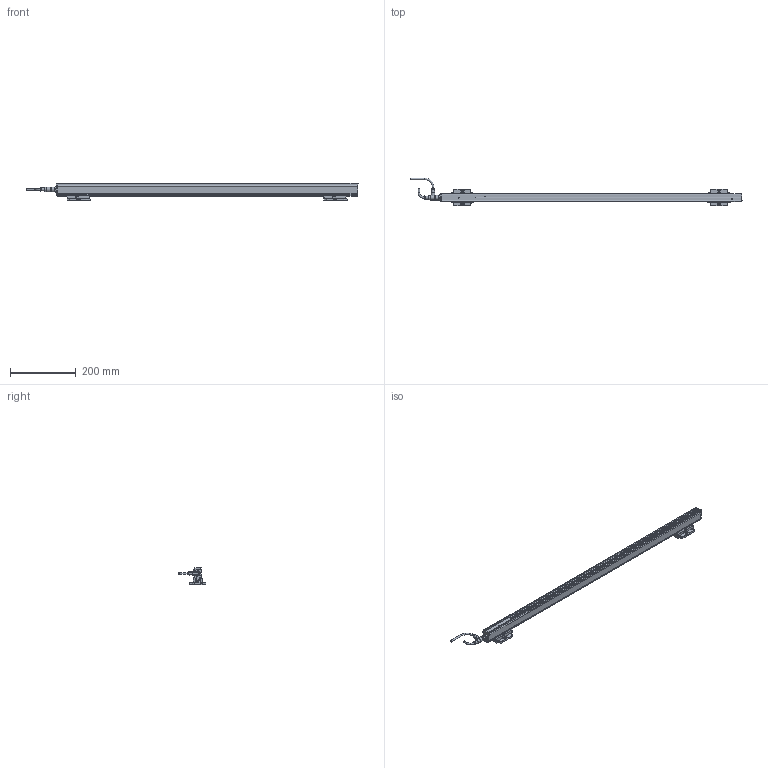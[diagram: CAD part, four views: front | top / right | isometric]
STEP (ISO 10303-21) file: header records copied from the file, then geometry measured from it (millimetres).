
FILE_DESCRIPTION(('Bauteilbeschreibung','HiCAD-Model','HiCAD-STEP-TRANSLATION','Bauteilbeschreibung'),'2;1');
FILE_NAME('PERFORMAXEASY_750-930_3D.STP','2014-07-02T10:35:41+00:00',('Konstrukteur'),('Konstrukteur Firma GmbH'),' HiCAD 2011, Step 1600.0 ','HiCAD 2011','confidential');
FILE_SCHEMA(('AUTOMOTIVE_DESIGN { 1 2 10303 214 0 1 1 1 }'));
Products named in the file (34): PERFORMAXEASY_750_930_3D; A_PERFORMAX EASY SPEED 750_930; A_END CAP; A0END0CAP; A_PIN; A0PIN; A_PROFILE; A_POTTING; A_LED; A519020315_CONNECTOR APPLIANCE; A_INSERT; A_CONTACTS; A_HOUSING; A_CONNECTOR STRAIGHT; EXTRUDED SOLID_0; DRAAD GEBOGEN; REVOLVED SOLID_1; REVOLVED SOLID_3; A_CONNECTOR ANGLED; REVOLVED0SOLID01; EXTRUDED0SOLID00; C_EDGE SWEEP_0; REVOLVED SOLID_2; REVOLVED0SOLID03; A532000100_MOUNTING BRACKET BA; A_SIDE PIECE; A0SIDE0PIECE; A_SLIDE PIECE; A_BRACKET SMALL; A5320001000MOUNTING0BRACKET0BA; A0SIDE0PIECE0; A0SIDE0PIECE1; A0SLIDE0PIECE; A0BRACKET0SMALL
Assembly tree (33 placements, depth 4):
  PERFORMAXEASY_750_930_3D
    A_PERFORMAX EASY SPEED 750_930
      A_END CAP
      A0END0CAP
      A_PIN
      A0PIN
      A_PROFILE
      A_POTTING
      A_LED
      A519020315_CONNECTOR APPLIANCE
        A_INSERT
        A_CONTACTS
        A_HOUSING
      A_CONNECTOR STRAIGHT
        EXTRUDED SOLID_0
        DRAAD GEBOGEN
        REVOLVED SOLID_1
        REVOLVED SOLID_3
      A_CONNECTOR ANGLED
        REVOLVED0SOLID01
        EXTRUDED0SOLID00
        C_EDGE SWEEP_0
        REVOLVED SOLID_2
        REVOLVED0SOLID03
      A532000100_MOUNTING BRACKET BA
        A_SIDE PIECE
        A0SIDE0PIECE
        A_SLIDE PIECE
        A_BRACKET SMALL
      A5320001000MOUNTING0BRACKET0BA
        A0SIDE0PIECE0
        A0SIDE0PIECE1
        A0SLIDE0PIECE
        A0BRACKET0SMALL
Bounding box: 1008.57 x 84.25 x 52.3 mm (x, y, z)
Volume: 693113 mm3; surface area: 230030.3 mm2
Topology: 32 solids, 38 shells, 1579 faces, 3947 edges, 2371 vertices
Faces by surface type: cylinder 682, plane 629, torus 102, sphere 78, bspline 64, cone 24
Full cylindrical faces by diameter (mm): 0.8 x10, 1 x5, 1.48 x2, 2.661 x1, 3 x8, 4.2 x2, 5 x4, 5.5 x10, 8 x2, 8.2 x1, 8.4 x2, 8.945 x1, 9 x2, 10.2 x1, 10.5 x3, 11 x1, 12 x3, 12.8 x1, 13.8 x4, 14.5 x3
Entity records: 70499 total; most frequent: CARTESIAN_POINT 15344, DIRECTION 7878, ORIENTED_EDGE 7410, EDGE_CURVE 3705, COLOUR_RGB 3546, PRESENTATION_STYLE_ASSIGNMENT 3546, OVER_RIDING_STYLED_ITEM 3519, CURVE_STYLE 3509
